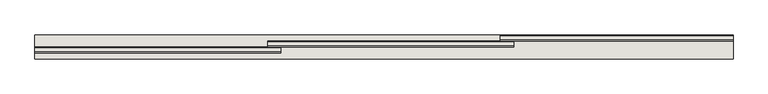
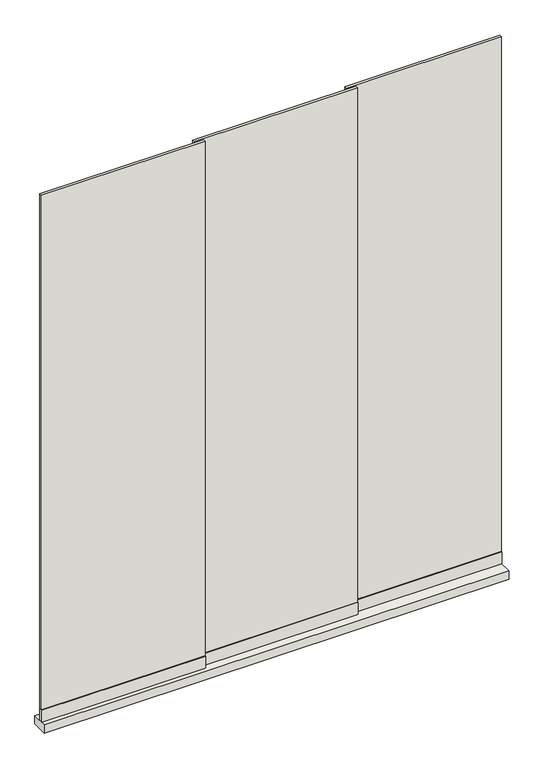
"""IFC4 building model written with IfcOpenShell, lengths in millimetres: wall geometry, Renson_Amani_Glass_Sliding_Panel : Renson_Amani_Glass_Sliding_Panel."""

from ifc_helpers import new_model, si_unit, frame, origin, origin_with_axes, place, context, project, spatial, polyline, outline, extrude, source, transform, mapped, element, save


def wall_83ab0af3(model_context):
    return source(origin(), model_context, "Body", "SweptSolid", [
        extrude(outline(polyline([(750.0, 0.0), (750.0, -64.0), (-1100.0, -64.0), (-1100.0, 0.0), (750.0, 0.0)])), origin_with_axes(), (0.0, 0.0, 1.0), 35.0),
        extrude(outline(polyline([(750.0, -3.0), (750.0, -13.0), (133.3333333, -13.0), (133.3333333, -3.0), (750.0, -3.0)])), frame((0.0, 0.0, 86.0), z_axis=(0.0, 0.0, 1.0), x_axis=(1.0, 0.0, 0.0)), (0.0, 0.0, 1.0), 2164.0),
        extrude(outline(polyline([(168.3333333, -19.0), (168.3333333, -29.0), (-483.3333333, -29.0), (-483.3333333, -19.0), (168.3333333, -19.0)])), frame((0.0, 0.0, 86.0), z_axis=(0.0, 0.0, 1.0), x_axis=(1.0, 0.0, 0.0)), (0.0, 0.0, 1.0), 2164.0),
        extrude(outline(polyline([(-448.3333333, -35.0), (-448.3333333, -45.0), (-1100.0, -45.0), (-1100.0, -35.0), (-448.3333333, -35.0)])), frame((0.0, 0.0, 86.0), z_axis=(0.0, 0.0, 1.0), x_axis=(1.0, 0.0, 0.0)), (0.0, 0.0, 1.0), 2164.0),
        extrude(outline(polyline([(750.0, 0.0), (750.0, -16.0), (133.3333333, -16.0), (133.3333333, 0.0), (750.0, 0.0)])), frame((0.0, 0.0, 35.0), z_axis=(0.0, 0.0, 1.0), x_axis=(1.0, 0.0, 0.0)), (0.0, 0.0, 1.0), 51.0),
        extrude(outline(polyline([(168.3333333, -16.0), (168.3333333, -32.0), (-483.3333333, -32.0), (-483.3333333, -16.0), (168.3333333, -16.0)])), frame((0.0, 0.0, 35.0), z_axis=(0.0, 0.0, 1.0), x_axis=(1.0, 0.0, 0.0)), (0.0, 0.0, 1.0), 51.0),
        extrude(outline(polyline([(-448.3333333, -32.0), (-448.3333333, -48.0), (-1100.0, -48.0), (-1100.0, -32.0), (-448.3333333, -32.0)])), frame((0.0, 0.0, 35.0), z_axis=(0.0, 0.0, 1.0), x_axis=(1.0, 0.0, 0.0)), (0.0, 0.0, 1.0), 51.0),
    ])


if __name__ == "__main__":
    model = new_model("IFC4")
    model_context = context("Model", 3, world=origin())
    ifc_project = project(units=[si_unit("LENGTHUNIT", "METRE", prefix="MILLI")], contexts=[model_context])
    site = spatial("IfcSite", under=ifc_project)
    building = spatial("IfcBuilding", under=site)
    placement = place(None, origin())
    wall_shape = wall_83ab0af3(model_context)
    element("IfcWall", 1, ObjectType="Renson_Amani_Glass_Sliding_Panel : Renson_Amani_Glass_Sliding_Panel", at=placement, inside=building, context=model_context, shape_type="MappedRepresentation", body=[
        mapped(wall_shape, transform((0.0, 0.0, 0.0), x_axis=(1.0, 0.0, 0.0), y_axis=(0.0, 1.0, 0.0), z_axis=(0.0, 0.0, 1.0))),
    ])
    save(model, "model.ifc")
